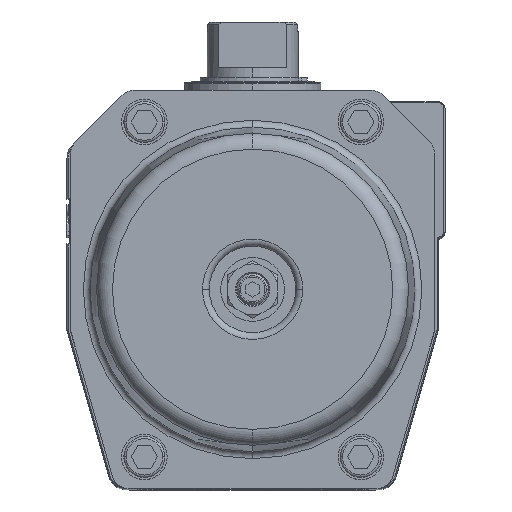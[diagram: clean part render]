
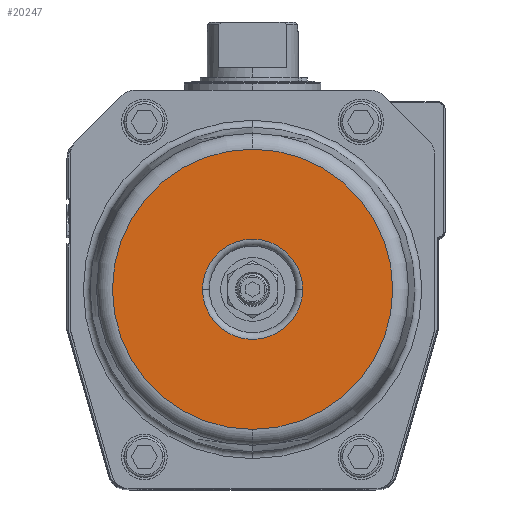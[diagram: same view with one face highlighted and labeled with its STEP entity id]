
A CAD part, top view. The second image highlights one B-rep face of the part: STEP entity #20247.
In plain terms, the highlighted planar face has unit normal (0, 0, 1).
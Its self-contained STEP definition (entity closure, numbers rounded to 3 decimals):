
#6305=CARTESIAN_POINT('',(0.,0.,
196.));
#6306=DIRECTION('',(0.,0.,-1.));
#6307=DIRECTION('',(0.,-1.,0.));
#6308=AXIS2_PLACEMENT_3D('',#6305,#6306,#6307);
#6310=CARTESIAN_POINT('',(0.,0.,
196.));
#6311=DIRECTION('',(0.,0.,-1.));
#6312=DIRECTION('',(0.,1.,0.));
#6313=AXIS2_PLACEMENT_3D('',#6310,#6311,#6312);
#6315=CARTESIAN_POINT('',(0.,0.,
196.));
#6316=DIRECTION('',(0.,0.,1.));
#6317=DIRECTION('',(1.,0.,0.));
#6318=AXIS2_PLACEMENT_3D('',#6315,#6316,#6317);
#6320=CARTESIAN_POINT('',(0.,0.,
196.));
#6321=DIRECTION('',(0.,0.,1.));
#6322=DIRECTION('',(-1.,0.,0.));
#6323=AXIS2_PLACEMENT_3D('',#6320,#6321,#6322);
#9684=CARTESIAN_POINT('',(0.,-61.512,196.));
#9685=CARTESIAN_POINT('',(0.,61.512,
196.));
#9686=VERTEX_POINT('',#9684);
#9687=VERTEX_POINT('',#9685);
#9688=CARTESIAN_POINT('',(22.,0.,196.));
#9689=CARTESIAN_POINT('',(-22.,0.,196.));
#9690=VERTEX_POINT('',#9688);
#9691=VERTEX_POINT('',#9689);
#20232=CARTESIAN_POINT('',(0.,0.,196.));
#20233=DIRECTION('',(0.,0.,1.));
#20234=DIRECTION('',(0.,-1.,0.));
#20235=AXIS2_PLACEMENT_3D('',#20232,#20233,#20234);
#20236=PLANE('',#20235);
#20237=ORIENTED_EDGE('',*,*,#20163,.T.);
#20238=ORIENTED_EDGE('',*,*,#20190,.T.);
#20239=EDGE_LOOP('',(#20237,#20238));
#20240=FACE_OUTER_BOUND('',#20239,.F.);
#20242=ORIENTED_EDGE('',*,*,#20241,.T.);
#20244=ORIENTED_EDGE('',*,*,#20243,.T.);
#20245=EDGE_LOOP('',(#20242,#20244));
#20246=FACE_BOUND('',#20245,.F.);
#20247=ADVANCED_FACE('',(#20240,#20246),#20236,.T.);
#6309=CIRCLE('',#6308,61.512);
#6314=CIRCLE('',#6313,61.512);
#6319=CIRCLE('',#6318,22.);
#6324=CIRCLE('',#6323,22.);
#20163=EDGE_CURVE('',#9686,#9687,#6309,.T.);
#20190=EDGE_CURVE('',#9687,#9686,#6314,.T.);
#20241=EDGE_CURVE('',#9690,#9691,#6319,.T.);
#20243=EDGE_CURVE('',#9691,#9690,#6324,.T.);
